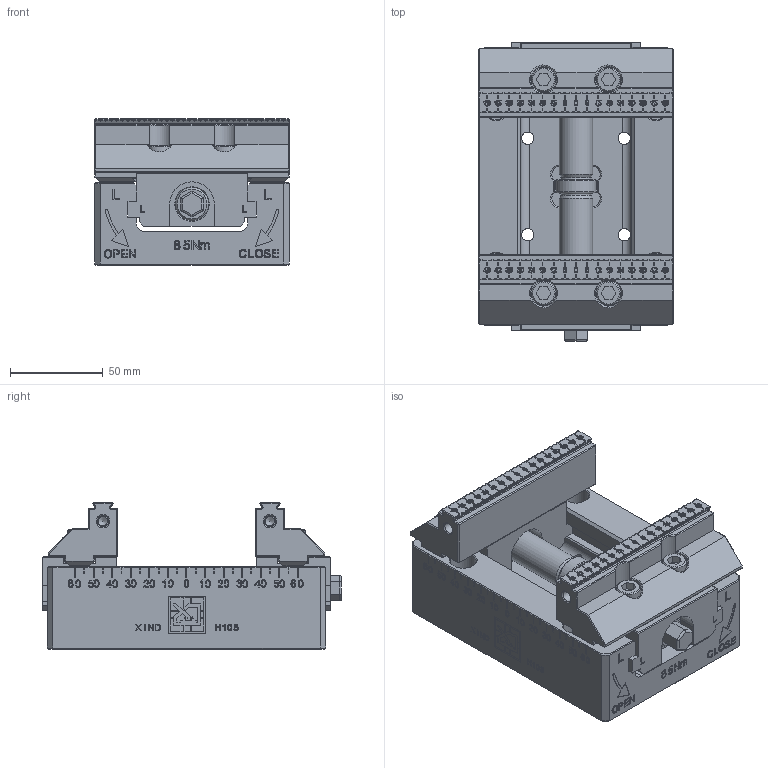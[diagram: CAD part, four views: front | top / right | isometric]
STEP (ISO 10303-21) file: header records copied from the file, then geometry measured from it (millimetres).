
FILE_DESCRIPTION(/* description */ (''),/* implementation_level */ '2;1');
FILE_NAME(/* name */ '',/* time_stamp */ '2025-07-22T20:31:56+08:00',/* author */ (''),/* organization */ (''),/* preprocessor_version */ 'ST-DEVELOPER v11',/* originating_system */ 'SIEMENS PLM Software NX 7.0',/* authorisation */ '');
FILE_SCHEMA (('CONFIG_CONTROL_DESIGN'));
Products named in the file (1): AdmiDBC3s3t8
Bounding box: 105 x 161 x 79 mm (x, y, z)
Volume: 722244.4 mm3; surface area: 145140.2 mm2
Topology: 10 solids, 10 shells, 3191 faces, 8368 edges, 5548 vertices
Faces by surface type: plane 2185, extrusion 398, cylinder 373, cone 219, bspline 12, torus 4
Full cylindrical faces by diameter (mm): 5 x8, 6 x4, 6.7 x4, 8 x12, 8.5 x5, 12 x4, 13 x4, 14 x9, 16.6 x2, 18 x2, 22 x1
Entity records: 110845 total; most frequent: CARTESIAN_POINT 34654, ORIENTED_EDGE 16424, DIRECTION 13652, EDGE_CURVE 8212, VECTOR 6154, LINE 5756, VERTEX_POINT 5508, AXIS2_PLACEMENT_3D 3749
